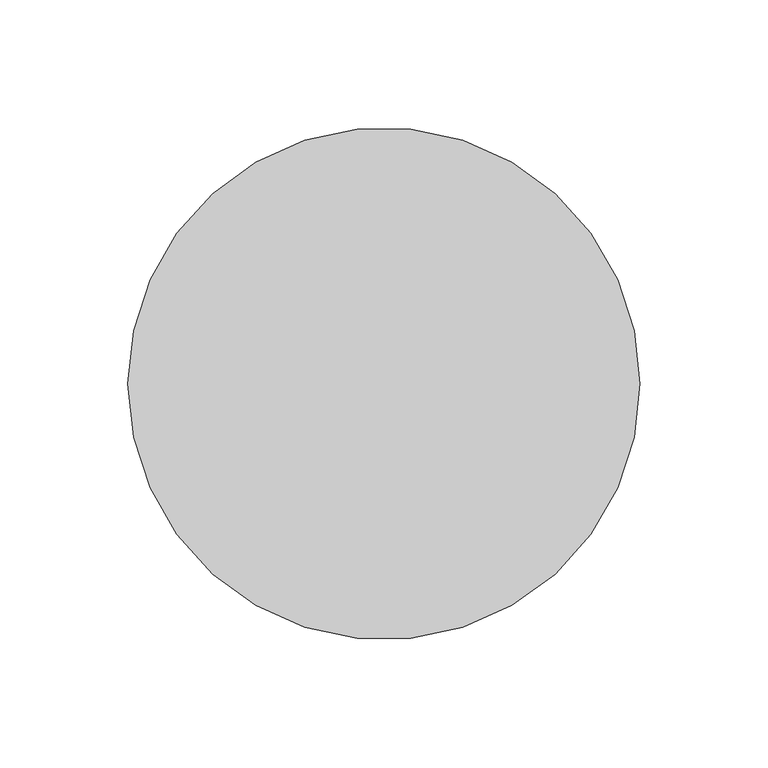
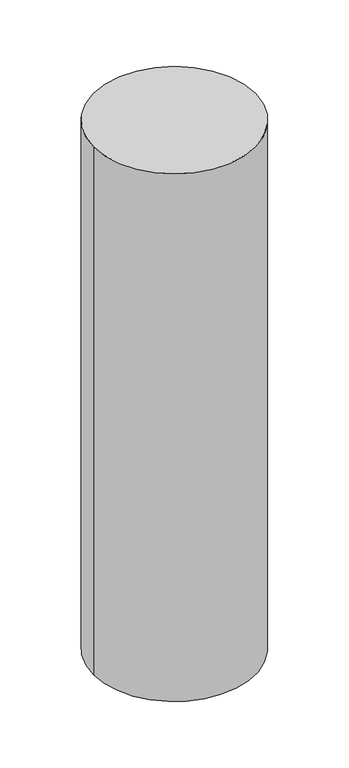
"""IFC4 building model written with IfcOpenShell, lengths in millimetres: member geometry, 矩形竖梃 : 圆瓦."""

from ifc_helpers import new_model, si_unit, point, frame, origin, origin_2d, place, context, project, spatial, circle_curve, trimmed, segment, composite_curve, outline, extrude, source, transform, mapped, element, save


def member_7626b7be(model_context):
    return source(origin(), model_context, "Body", "SweptSolid", [
        extrude(outline(composite_curve([segment(trimmed(circle_curve(origin_2d(), 100.0), [point((100.0, 0.0))], [point((-100.0, 0.0))], False, "CARTESIAN"), True, "CONTINUOUS"), segment(trimmed(circle_curve(origin_2d(), 100.0), [point((-100.0, 0.0))], [point((100.0, 0.0))], False, "CARTESIAN"), True, "CONTINUOUS")], self_intersect=False)), frame((0.0, 0.0, -688.5616092), z_axis=(0.0, 0.0, 1.0), x_axis=(1.0, 0.0, 0.0)), (0.0, 0.0, 1.0), 688.5616092),
    ])


if __name__ == "__main__":
    model = new_model("IFC4")
    model_context = context("Model", 3, world=origin())
    ifc_project = project(units=[si_unit("LENGTHUNIT", "METRE", prefix="MILLI")], contexts=[model_context])
    site = spatial("IfcSite", under=ifc_project)
    building = spatial("IfcBuilding", under=site)
    placement = place(None, origin())
    member_shape = member_7626b7be(model_context)
    element("IfcMember", 1, ObjectType="矩形竖梃 : 圆瓦", at=placement, inside=building, context=model_context, shape_type="MappedRepresentation", body=[
        mapped(member_shape, transform((0.0, 0.0, 0.0), x_axis=(1.0, 0.0, 0.0), y_axis=(0.0, 1.0, 0.0), z_axis=(0.0, 0.0, 1.0))),
    ])
    save(model, "model.ifc")
